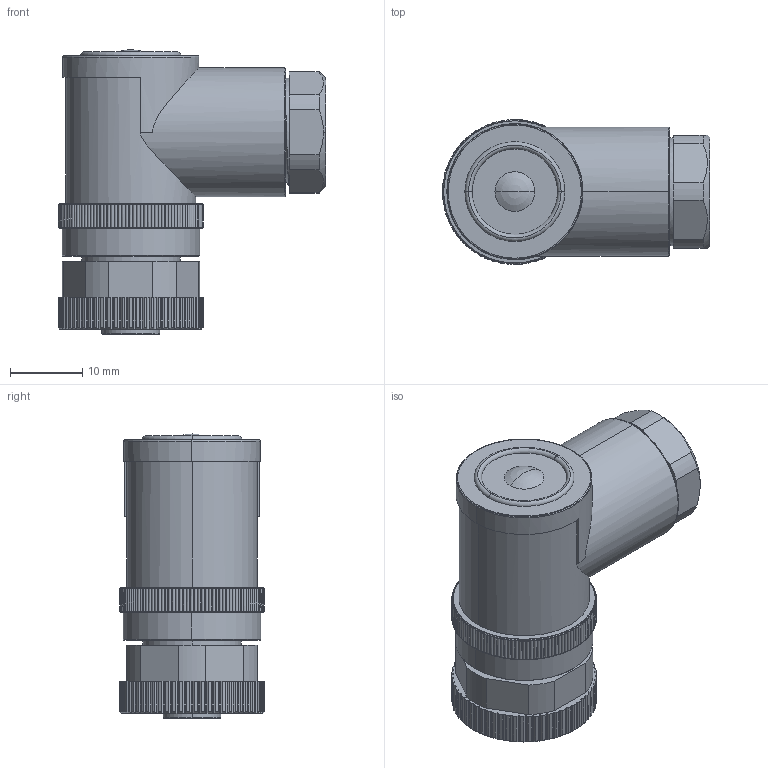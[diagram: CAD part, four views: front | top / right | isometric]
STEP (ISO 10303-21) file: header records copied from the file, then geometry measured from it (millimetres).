
FILE_DESCRIPTION((''),'2;1');
FILE_NAME('XC-M12-RWK-PG9','2025-06-23T10:44:07',('lyj'),(''),'CREO PARAMETRIC BY PTC INC, 2019010','CREO PARAMETRIC BY PTC INC, 2019010','');
FILE_SCHEMA(('CONFIG_CONTROL_DESIGN'));
Length unit declared in the file: millimetre
Products named in the file (1): XC-M12-RWK-PG9
Bounding box: 36.9 x 20 x 39.3 mm (x, y, z)
Volume: 9815.4 mm3; surface area: 12954.2 mm2
Topology: 2 solids, 26 shells, 2039 faces, 5442 edges, 3509 vertices
Faces by surface type: cylinder 911, plane 540, cone 398, bspline 85, extrusion 57, torus 44, sphere 4
Entity records: 100417 total; most frequent: CARTESIAN_POINT 51286, ORIENTED_EDGE 10876, DIRECTION 9531, EDGE_CURVE 5438, AXIS2_PLACEMENT_3D 3761, VERTEX_POINT 3509, EDGE_LOOP 2169, FACE_OUTER_BOUND 2039
